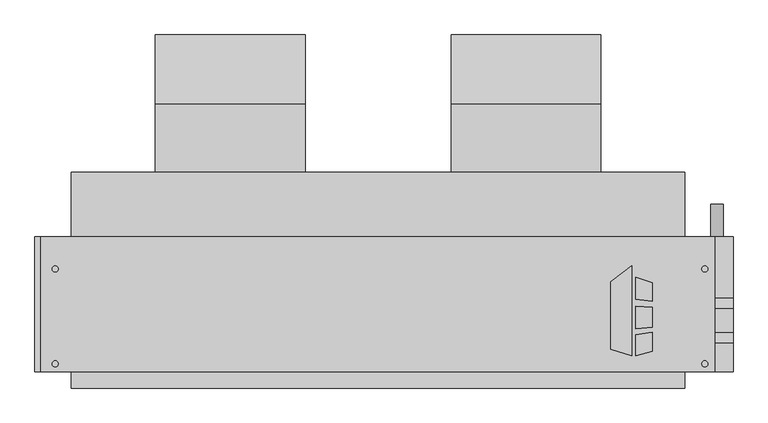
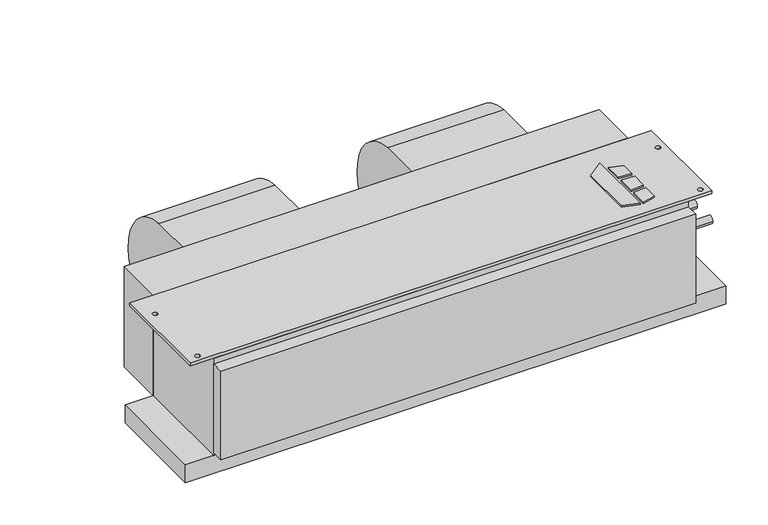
"""IFC4 building model written with IfcOpenShell, lengths in millimetres: proxy geometry, Concealed_Horizontal_Fan_Coil_Unit_-_CHY_-_IEC_-_2-Pipe_Cool-EHeat_RH_2022 : Size 08 - 277v/60Hz/1Ph - 4 Row 6.0kW."""

from ifc_helpers import new_model, si_unit, point, frame, frame_2d, origin, origin_with_axes, place, context, project, spatial, polyline, circle_curve, trimmed, segment, composite_curve, outline, extrude, source, transform, mapped, element, save


def mechanical_equipment_02c48ade(model_context):
    return source(origin(), model_context, "Body", "SweptSolid", [
        extrude(outline(polyline([(518.8019761, -202.5703476), (551.3602728, -177.1330184), (551.3602728, -319.0875), (518.8019761, -308.8679201), (518.8019761, -202.5703476)])), origin_with_axes(), (0.0, 0.0, 1.0), 3.175),
        extrude(outline(polyline([(558.1186058, -230.442352), (558.1186058, -195.9624379), (584.2, -204.1490115), (584.2, -233.6447446), (558.1186058, -230.442352)])), origin_with_axes(), (0.0, 0.0, 1.0), 3.175),
        extrude(outline(polyline([(584.2, -312.0990115), (558.1186058, -319.0875), (558.1186058, -285.8661996), (584.2, -282.3243564), (584.2, -312.0990115)])), origin_with_axes(), (0.0, 0.0, 1.0), 3.175),
        extrude(outline(polyline([(584.2, -242.7263277), (584.2, -273.976483), (558.1186058, -276.717748), (558.1186058, -240.8600378), (584.2, -242.7263277)])), origin_with_axes(), (0.0, 0.0, 1.0), 3.175),
        extrude(outline(composite_curve([segment(trimmed(circle_curve(frame_2d((68.401169, -136.0299844)), 117.3559541), [point((77.7875, -19.05))], [point((185.7375, -138.176))], False, "CARTESIAN"), True, "CONTINUOUS"), segment(trimmed(circle_curve(frame_2d((90.0022663, -136.4250563)), 95.7512443), [point((185.7375, -138.176))], [point((77.7875, -231.394))], False, "CARTESIAN"), True, "CONTINUOUS"), segment(trimmed(circle_curve(frame_2d((89.9711869, -136.6666968)), 95.5076133), [point((77.7875, -231.394))], [point((-5.5245, -138.176))], False, "CARTESIAN"), True, "CONTINUOUS"), segment(trimmed(circle_curve(frame_2d((-24.6059828, -138.4775816)), 19.0838659), [point((-5.5245, -138.176))], [point((-17.7963373, -120.65))], True, "CARTESIAN"), True, "CONTINUOUS"), segment(polyline([(-17.7963373, -120.65), (-30.1625, -120.65), (-30.1625, -19.05), (77.7875, -19.05)]), True, "CONTINUOUS")], self_intersect=False)), frame((267.5255, 0.0, 0.0), z_axis=(1.0, 0.0, 0.0), x_axis=(0.0, 1.0, 0.0)), (0.0, 0.0, 1.0), 235.712),
        extrude(outline(composite_curve([segment(trimmed(circle_curve(frame_2d((68.401169, -136.0299844)), 117.3559541), [point((77.7875, -19.05))], [point((185.7375, -138.176))], False, "CARTESIAN"), True, "CONTINUOUS"), segment(trimmed(circle_curve(frame_2d((90.0022663, -136.4250563)), 95.7512443), [point((185.7375, -138.176))], [point((77.7875, -231.394))], False, "CARTESIAN"), True, "CONTINUOUS"), segment(trimmed(circle_curve(frame_2d((89.9711869, -136.6666968)), 95.5076133), [point((77.7875, -231.394))], [point((-5.5245, -138.176))], False, "CARTESIAN"), True, "CONTINUOUS"), segment(trimmed(circle_curve(frame_2d((-24.6059828, -138.4775816)), 19.0838659), [point((-5.5245, -138.176))], [point((-17.7963373, -120.65))], True, "CARTESIAN"), True, "CONTINUOUS"), segment(polyline([(-17.7963373, -120.65), (-30.1625, -120.65), (-30.1625, -19.05), (77.7875, -19.05)]), True, "CONTINUOUS")], self_intersect=False)), frame((-197.612, 0.0, 0.0), z_axis=(1.0, 0.0, 0.0), x_axis=(0.0, 1.0, 0.0)), (0.0, 0.0, 1.0), 235.712),
        extrude(outline(polyline([(682.625, -131.7625), (682.625, -344.4875), (-377.825, -344.4875), (-377.825, -131.7625), (682.625, -131.7625)]), holes=[composite_curve([segment(trimmed(circle_curve(frame_2d((-355.6, -182.5625)), 4.7625), [point((-360.3625, -182.5625))], [point((-350.8375, -182.5625))], True, "CARTESIAN"), True, "CONTINUOUS"), segment(trimmed(circle_curve(frame_2d((-355.6, -182.5625)), 4.7625), [point((-350.8375, -182.5625))], [point((-360.3625, -182.5625))], True, "CARTESIAN"), True, "CONTINUOUS")], self_intersect=False), composite_curve([segment(trimmed(circle_curve(frame_2d((-355.6, -331.7875)), 4.7625), [point((-360.3625, -331.7875))], [point((-350.8375, -331.7875))], True, "CARTESIAN"), True, "CONTINUOUS"), segment(trimmed(circle_curve(frame_2d((-355.6, -331.7875)), 4.7625), [point((-350.8375, -331.7875))], [point((-360.3625, -331.7875))], True, "CARTESIAN"), True, "CONTINUOUS")], self_intersect=False), composite_curve([segment(trimmed(circle_curve(frame_2d((666.75, -182.5625)), 4.7625), [point((661.9875, -182.5625))], [point((671.5125, -182.5625))], True, "CARTESIAN"), True, "CONTINUOUS"), segment(trimmed(circle_curve(frame_2d((666.75, -182.5625)), 4.7625), [point((671.5125, -182.5625))], [point((661.9875, -182.5625))], True, "CARTESIAN"), True, "CONTINUOUS")], self_intersect=False), composite_curve([segment(trimmed(circle_curve(frame_2d((666.75, -331.7875)), 4.7625), [point((661.9875, -331.7875))], [point((671.5125, -331.7875))], True, "CARTESIAN"), True, "CONTINUOUS"), segment(trimmed(circle_curve(frame_2d((666.75, -331.7875)), 4.7625), [point((671.5125, -331.7875))], [point((661.9875, -331.7875))], True, "CARTESIAN"), True, "CONTINUOUS")], self_intersect=False)]), frame((0.0, 0.0, -6.35), z_axis=(0.0, 0.0, 1.0), x_axis=(1.0, 0.0, 0.0)), (0.0, 0.0, 1.0), 6.35),
        extrude(outline(polyline([(-330.2, -30.1625), (635.0, -30.1625), (635.0, -131.7625), (-330.2, -131.7625), (-330.2, -30.1625)])), frame((0.0, 0.0, -215.9), z_axis=(0.0, 0.0, 1.0), x_axis=(1.0, 0.0, 0.0)), (0.0, 0.0, 1.0), 215.9),
        extrude(outline(composite_curve([segment(trimmed(circle_curve(frame_2d((-241.3, 685.8)), 9.525), [point((-241.3, 676.275))], [point((-241.3, 695.325))], False, "CARTESIAN"), True, "CONTINUOUS"), segment(trimmed(circle_curve(frame_2d((-241.3, 685.8)), 9.525), [point((-241.3, 695.325))], [point((-241.3, 676.275))], False, "CARTESIAN"), True, "CONTINUOUS")], self_intersect=False)), frame((0.0, -131.7625, 0.0), z_axis=(0.0, 1.0, 0.0), x_axis=(0.0, 0.0, 1.0)), (0.0, 0.0, 1.0), 50.8),
        extrude(outline(polyline([(635.0, -369.8875), (-330.2, -369.8875), (-330.2, -344.4875), (635.0, -344.4875), (635.0, -369.8875)])), frame((0.0, 0.0, -209.55), z_axis=(0.0, 0.0, 1.0), x_axis=(1.0, 0.0, 0.0)), (0.0, 0.0, 1.0), 190.5),
        extrude(outline(polyline([(711.2, -131.7625), (711.2, -344.4875), (-387.35, -344.4875), (-387.35, -131.7625), (711.2, -131.7625)])), frame((0.0, 0.0, -254.0), z_axis=(0.0, 0.0, 1.0), x_axis=(1.0, 0.0, 0.0)), (0.0, 0.0, 1.0), 38.1),
        extrude(outline(composite_curve([segment(trimmed(circle_curve(frame_2d((-290.5125, -104.775)), 7.9375), [point((-298.45, -104.775))], [point((-282.575, -104.775))], False, "CARTESIAN"), True, "CONTINUOUS"), segment(trimmed(circle_curve(frame_2d((-290.5125, -104.775)), 7.9375), [point((-282.575, -104.775))], [point((-298.45, -104.775))], False, "CARTESIAN"), True, "CONTINUOUS")], self_intersect=False)), frame((635.0, 0.0, 0.0), z_axis=(1.0, 0.0, 0.0), x_axis=(0.0, 1.0, 0.0)), (0.0, 0.0, 1.0), 76.2),
        extrude(outline(composite_curve([segment(trimmed(circle_curve(frame_2d((-236.5375, -104.775)), 7.9375), [point((-244.475, -104.775))], [point((-228.6, -104.775))], False, "CARTESIAN"), True, "CONTINUOUS"), segment(trimmed(circle_curve(frame_2d((-236.5375, -104.775)), 7.9375), [point((-228.6, -104.775))], [point((-244.475, -104.775))], False, "CARTESIAN"), True, "CONTINUOUS")], self_intersect=False)), frame((635.0, 0.0, 0.0), z_axis=(1.0, 0.0, 0.0), x_axis=(0.0, 1.0, 0.0)), (0.0, 0.0, 1.0), 76.2),
        extrude(outline(polyline([(635.0, -344.4875), (-330.2, -344.4875), (-330.2, -131.7625), (635.0, -131.7625), (635.0, -344.4875)])), frame((0.0, 0.0, -215.9), z_axis=(0.0, 0.0, 1.0), x_axis=(1.0, 0.0, 0.0)), (0.0, 0.0, 1.0), 209.55),
    ])


if __name__ == "__main__":
    model = new_model("IFC4")
    model_context = context("Model", 3, world=origin())
    ifc_project = project(units=[si_unit("LENGTHUNIT", "METRE", prefix="MILLI")], contexts=[model_context])
    site = spatial("IfcSite", under=ifc_project)
    building = spatial("IfcBuilding", under=site)
    placement = place(None, origin())
    mechanical_equipment_shape = mechanical_equipment_02c48ade(model_context)
    element("IfcBuildingElementProxy", 1, Name="Concealed_Horizontal_Fan_Coil_Unit_-_CHY_-_IEC_-_2-Pipe_Cool-EHeat_RH_2022 : Size 08 - 277v/60Hz/1Ph - 4 Row 6.0kW", ObjectType="Concealed_Horizontal_Fan_Coil_Unit_-_CHY_-_IEC_-_2-Pipe_Cool-EHeat_RH_2022 : Size 08 - 277v/60Hz/1Ph - 4 Row 6.0kW", at=placement, inside=building, context=model_context, shape_type="MappedRepresentation", body=[
        mapped(mechanical_equipment_shape, transform((0.0, 0.0, 0.0), x_axis=(1.0, 0.0, 0.0), y_axis=(0.0, 1.0, 0.0), z_axis=(0.0, 0.0, 1.0))),
    ])
    save(model, "model.ifc")
